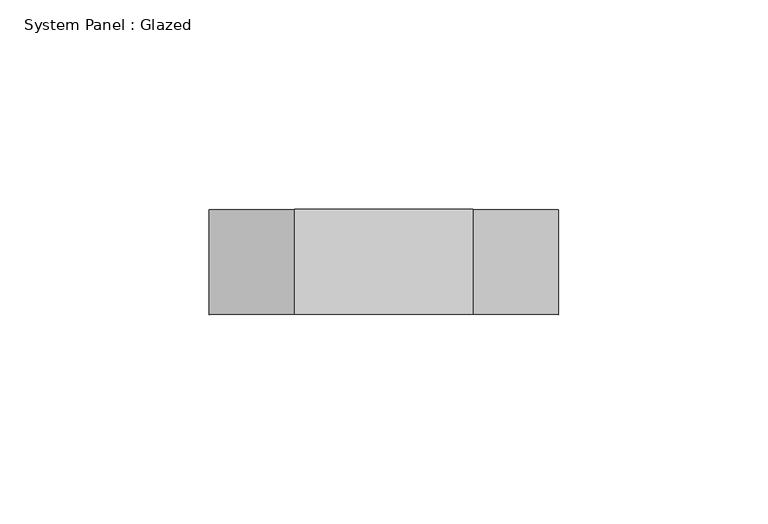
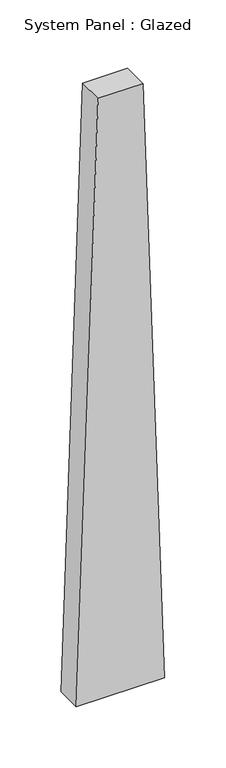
"""IFC4 building model written with IfcOpenShell, lengths in millimetres: plate geometry, System Panel : Glazed."""

import ifcopenshell
import ifcopenshell.guid

model = None  # the IFC model being written
_history = None  # IfcOwnerHistory: only IFC2X3 demands one
_inside = {}  # id of a spatial element -> (the spatial element, [elements in it])
_under = {}  # id of a project, library or spatial element -> (it, [spatial elements below it])
_declared = {}  # id of a project -> (the project, [libraries it declares])
_typed = {}  # id of a type object -> (the type object, [elements of that type])
_made_of = {}  # id of a material, layer set ... -> (it, [elements and type objects made of it])


def new_model(schema):
    """Start an empty IFC model of exactly this schema.

    Asked for "IFC4X3", IfcOpenShell would pick the latest addendum, in which some entities
    have other attributes; the version numbers below select the first issue.
    IFC2X3 requires an IfcOwnerHistory on every rooted entity: one is made here for all.
    """
    global model, _history
    if schema == "IFC4X3":
        model = ifcopenshell.file(schema_version=(4, 3, 0, 0))
    else:
        model = ifcopenshell.file(schema=schema)
    _inside.clear()
    _under.clear()
    _declared.clear()
    _typed.clear()
    _made_of.clear()
    _history = None
    if model.schema == "IFC2X3":
        org = make("IfcOrganization", Name="unknown")
        user = make(
            "IfcPersonAndOrganization",
            ThePerson=make("IfcPerson", FamilyName="unknown"),
            TheOrganization=org,
        )
        app = make(
            "IfcApplication",
            ApplicationDeveloper=org,
            Version="unknown",
            ApplicationFullName="unknown",
            ApplicationIdentifier="unknown",
        )
        _history = make(
            "IfcOwnerHistory",
            OwningUser=user,
            OwningApplication=app,
            ChangeAction="ADDED",
            CreationDate=0,
        )
    return model


def make(cls, **values):
    """One entity of the class cls with the attributes given. An attribute that is None is left unset."""
    return model.create_entity(
        cls, **{name: value for name, value in values.items() if value is not None}
    )


def rooted(cls, **values):
    """An entity with a GlobalId (a new one), such as an element, a storey or a relation."""
    return make(cls, GlobalId=ifcopenshell.guid.new(), OwnerHistory=_history, **values)


def si_unit(unit_type, name, prefix=None):
    """IfcSIUnit, for example si_unit("LENGTHUNIT", "METRE", prefix="MILLI")."""
    return make("IfcSIUnit", UnitType=unit_type, Prefix=prefix, Name=name)


def assignment(units):
    """IfcUnitAssignment: the units of a project."""
    return None if units is None else make("IfcUnitAssignment", Units=units)


def point(xyz):
    """IfcCartesianPoint."""
    return None if xyz is None else make("IfcCartesianPoint", Coordinates=xyz)


def direction(xyz):
    """IfcDirection."""
    return None if xyz is None else make("IfcDirection", DirectionRatios=xyz)


def frame(location, z_axis=None, x_axis=None):
    """IfcAxis2Placement3D, a coordinate frame: its origin and axes. An axis left out is left unset."""
    return make(
        "IfcAxis2Placement3D",
        Location=point(location),
        Axis=direction(z_axis),
        RefDirection=direction(x_axis),
    )


def origin():
    """The frame at (0, 0, 0) with its axes left unset."""
    return frame((0.0, 0.0, 0.0))


def place(relative_to, where):
    """IfcLocalPlacement: puts the frame where relative to a parent placement (None: the world)."""
    return make(
        "IfcLocalPlacement", PlacementRelTo=relative_to, RelativePlacement=where
    )


def context(
    kind, dimensions, precision=None, world=None, true_north=None, identifier=None
):
    """IfcGeometricRepresentationContext, for example the 3D "Model" context."""
    return make(
        "IfcGeometricRepresentationContext",
        ContextIdentifier=identifier,
        ContextType=kind,
        CoordinateSpaceDimension=dimensions,
        Precision=precision,
        WorldCoordinateSystem=world,
        TrueNorth=true_north,
    )


def project(units=None, contexts=None):
    """IfcProject with its units and contexts."""
    return rooted(
        "IfcProject",
        Name="project",
        RepresentationContexts=contexts,
        UnitsInContext=assignment(units),
    )


def spatial(cls, under=None, at=None, **own):
    """A site, building, storey or space (cls), placed at a placement, below another one or the project."""
    s = rooted(cls, ObjectPlacement=at, **own)
    if under is not None:
        _under.setdefault(under.id(), (under, []))[1].append(s)
    return s


def polyline(points):
    """IfcPolyline through the points."""
    return make("IfcPolyline", Points=[point(p) for p in points])


def outline(outer, holes=None, kind="AREA"):
    """IfcArbitraryClosedProfileDef: a profile drawn as a closed curve; with holes, ...WithVoids."""
    if holes is None:
        return make("IfcArbitraryClosedProfileDef", ProfileType=kind, OuterCurve=outer)
    return make(
        "IfcArbitraryProfileDefWithVoids",
        ProfileType=kind,
        OuterCurve=outer,
        InnerCurves=holes,
    )


def extrude(swept, where, along, depth):
    """IfcExtrudedAreaSolid: the profile swept, set in the frame where, extruded along a direction by depth."""
    return make(
        "IfcExtrudedAreaSolid",
        SweptArea=swept,
        Position=where,
        ExtrudedDirection=direction(along),
        Depth=depth,
    )


def shape(context_of_items, identifier, shape_type, items):
    """IfcShapeRepresentation: the items that make up one representation, for example the "Body"."""
    return make(
        "IfcShapeRepresentation",
        ContextOfItems=context_of_items,
        RepresentationIdentifier=identifier,
        RepresentationType=shape_type,
        Items=items,
    )


def source(mapping_origin, context_of_items, identifier, shape_type, items):
    """IfcRepresentationMap: a shape defined once, which mapped items show again and again."""
    return make(
        "IfcRepresentationMap",
        MappingOrigin=mapping_origin,
        MappedRepresentation=shape(context_of_items, identifier, shape_type, items),
    )


def transform(
    local_origin,
    x_axis=None,
    y_axis=None,
    z_axis=None,
    scale=None,
    scale2=None,
    scale3=None,
    uniform=True,
):
    """IfcCartesianTransformationOperator3D, or its non-uniform kind. x_axis, y_axis, z_axis: its Axis1, 2, 3."""
    if uniform:
        return make(
            "IfcCartesianTransformationOperator3D",
            Axis1=direction(x_axis),
            Axis2=direction(y_axis),
            LocalOrigin=point(local_origin),
            Scale=scale,
            Axis3=direction(z_axis),
        )
    return make(
        "IfcCartesianTransformationOperator3DnonUniform",
        Axis1=direction(x_axis),
        Axis2=direction(y_axis),
        LocalOrigin=point(local_origin),
        Scale=scale,
        Axis3=direction(z_axis),
        Scale2=scale2,
        Scale3=scale3,
    )


def mapped(mapping_source, mapping_target):
    """IfcMappedItem: shows the shape of a source again, moved by a transform."""
    return make(
        "IfcMappedItem", MappingSource=mapping_source, MappingTarget=mapping_target
    )


def made_of(thing, what):
    """Note that an element or type object is made of a material, layer set ...; save() writes the relation."""
    if what is not None:
        _made_of.setdefault(what.id(), (what, []))[1].append(thing)
    return thing


def element(
    cls,
    number,
    at=None,
    inside=None,
    cuts=None,
    type_object=None,
    material=None,
    context=None,
    identifier="Body",
    shape_type=None,
    held_by="IfcProductDefinitionShape",
    body=None,
    shapes=None,
    **own,
):
    """One element of the class cls, such as IfcWall. Its Tag is "e" and its number.

    at: its placement. inside: the storey or other place that contains it. cuts: it is an
    opening in that element (IfcRelVoidsElement). A single representation is given by context,
    identifier, shape_type and body (its items); several are given by shapes. held_by: the class
    of the entity that holds the representations. save() writes the other relations.
    """
    e = rooted(cls, Tag="e%d" % number, ObjectPlacement=at, **own)
    if body is not None:
        shapes = [shape(context, identifier, shape_type, body)]
    if shapes is not None:
        e.Representation = make(held_by, Representations=shapes)
    if inside is not None:
        _inside.setdefault(inside.id(), (inside, []))[1].append(e)
    if cuts is not None:
        rooted(
            "IfcRelVoidsElement", RelatingBuildingElement=cuts, RelatedOpeningElement=e
        )
    if type_object is not None:
        _typed.setdefault(type_object.id(), (type_object, []))[1].append(e)
    return made_of(e, material)


def aggregate(whole, parts):
    """IfcRelAggregates: a whole, such as a stair, and the parts it consists of."""
    return rooted("IfcRelAggregates", RelatingObject=whole, RelatedObjects=parts)


def save(model, path):
    """Write the relations noted so far, then the file.

    IfcRelAggregates (storeys below a building ...), IfcRelContainedInSpatialStructure (elements
    in a storey), IfcRelDefinesByType, IfcRelAssociatesMaterial and IfcRelDeclares: one each for
    every whole, place, type object, material and project.
    """
    for whole, parts in _under.values():
        aggregate(whole, parts)
    for where, things in _inside.values():
        rooted(
            "IfcRelContainedInSpatialStructure",
            RelatedElements=things,
            RelatingStructure=where,
        )
    for kind, things in _typed.values():
        rooted("IfcRelDefinesByType", RelatedObjects=things, RelatingType=kind)
    for what, things in _made_of.values():
        rooted("IfcRelAssociatesMaterial", RelatedObjects=things, RelatingMaterial=what)
    for by, libraries in _declared.values():
        rooted("IfcRelDeclares", RelatingContext=by, RelatedDefinitions=libraries)
    model.write(path)


def system_panel_glazed_d6295151(model_context):
    return source(origin(), model_context, "Body", "SweptSolid", [
        extrude(outline(polyline([(0.0, -41.6978231), (0.0, 41.6978231), (599.65183, 21.2605356), (599.65183, -21.2605356), (0.0, -41.6978231)])), frame((0.0, 24.5, 0.0), z_axis=(0.0, 1.0, 0.0), x_axis=(0.0, 0.0, 1.0)), (0.0, 0.0, 1.0), 25.0),
    ])


if __name__ == "__main__":
    model = new_model("IFC4")
    model_context = context("Model", 3, world=origin())
    ifc_project = project(units=[si_unit("LENGTHUNIT", "METRE", prefix="MILLI")], contexts=[model_context])
    site = spatial("IfcSite", under=ifc_project)
    building = spatial("IfcBuilding", under=site)
    placement = place(None, origin())
    system_panel_glazed_shape = system_panel_glazed_d6295151(model_context)
    element("IfcPlate", 1, ObjectType="System Panel : Glazed", at=placement, inside=building, context=model_context, shape_type="MappedRepresentation", body=[
        mapped(system_panel_glazed_shape, transform((0.0, 0.0, 0.0), x_axis=(1.0, 0.0, 0.0), y_axis=(0.0, 1.0, 0.0), z_axis=(0.0, 0.0, 1.0))),
    ])
    save(model, "model.ifc")
